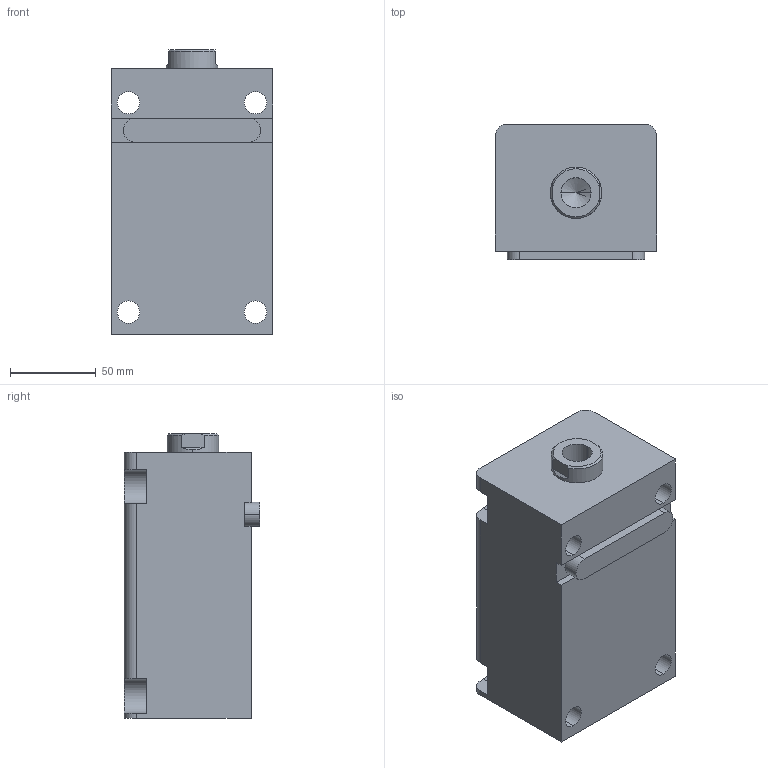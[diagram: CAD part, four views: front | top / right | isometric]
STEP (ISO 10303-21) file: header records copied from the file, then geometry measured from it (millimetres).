
FILE_DESCRIPTION (( 'STEP AP203' ), '1' );
FILE_NAME ('HTB-LA50-95N.STEP', '2019-10-09T07:13:52', ( '微软用户' ), ( '微软中国' ), 'SwSTEP 2.0', 'SolidWorks 2012', '' );
FILE_SCHEMA (( 'CONFIG_CONTROL_DESIGN' ));
Length unit declared in the file: millimetre
Products named in the file (4): HTB-LA50-95N; HTB-LA50-瑩; HTB-LA50-95掛极; HTB-LA50-95N活塞杆
Assembly tree (3 placements, depth 2):
  HTB-LA50-95N
    HTB-LA50-95掛极
    HTB-LA50-95N活塞杆
    HTB-LA50-瑩
Bounding box: 94 x 79 x 166 mm (x, y, z)
Volume: 908331.4 mm3; surface area: 125523.7 mm2
Topology: 3 solids, 3 shells, 86 faces, 213 edges, 139 vertices
Faces by surface type: plane 39, cylinder 35, cone 8, torus 4
Entity records: 3001 total; most frequent: DIRECTION 475, CARTESIAN_POINT 470, ORIENTED_EDGE 422, EDGE_CURVE 211, AXIS2_PLACEMENT_3D 180, VERTEX_POINT 139, VECTOR 115, LINE 115
